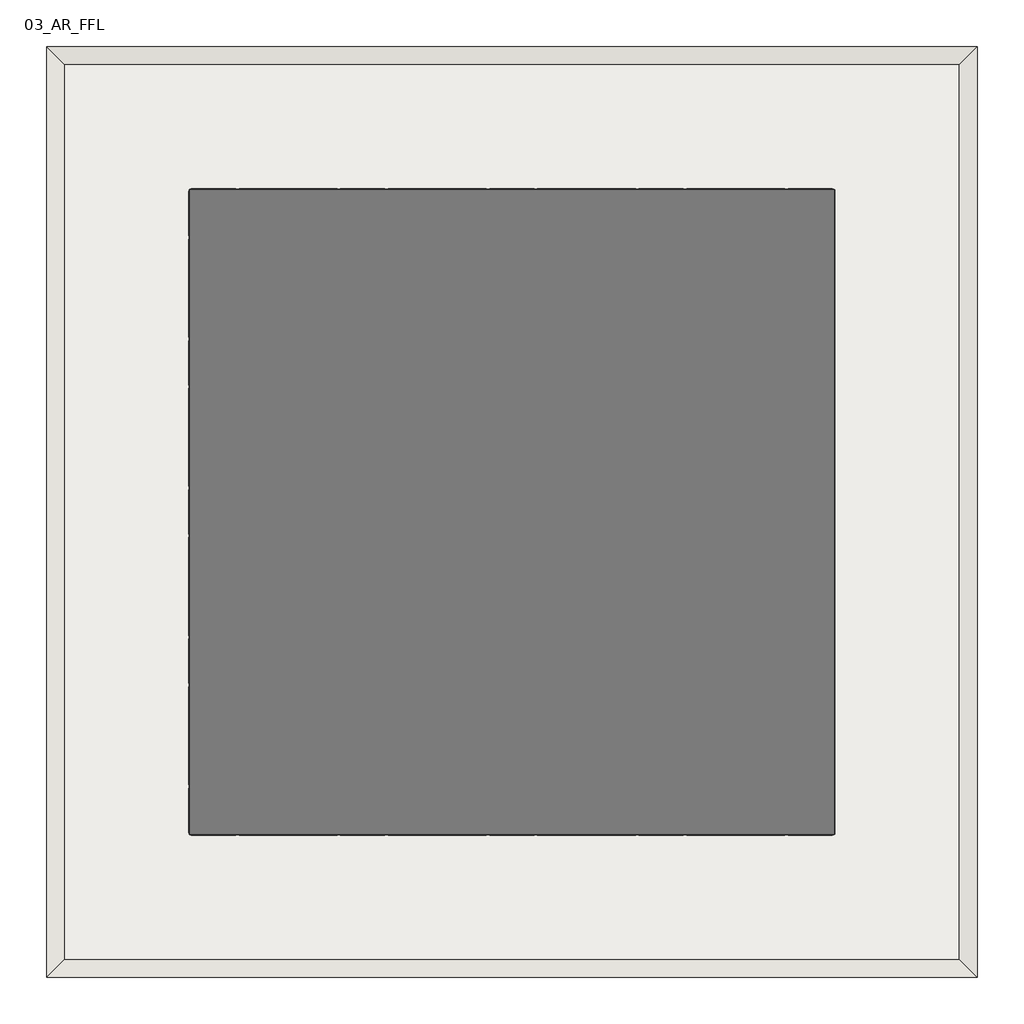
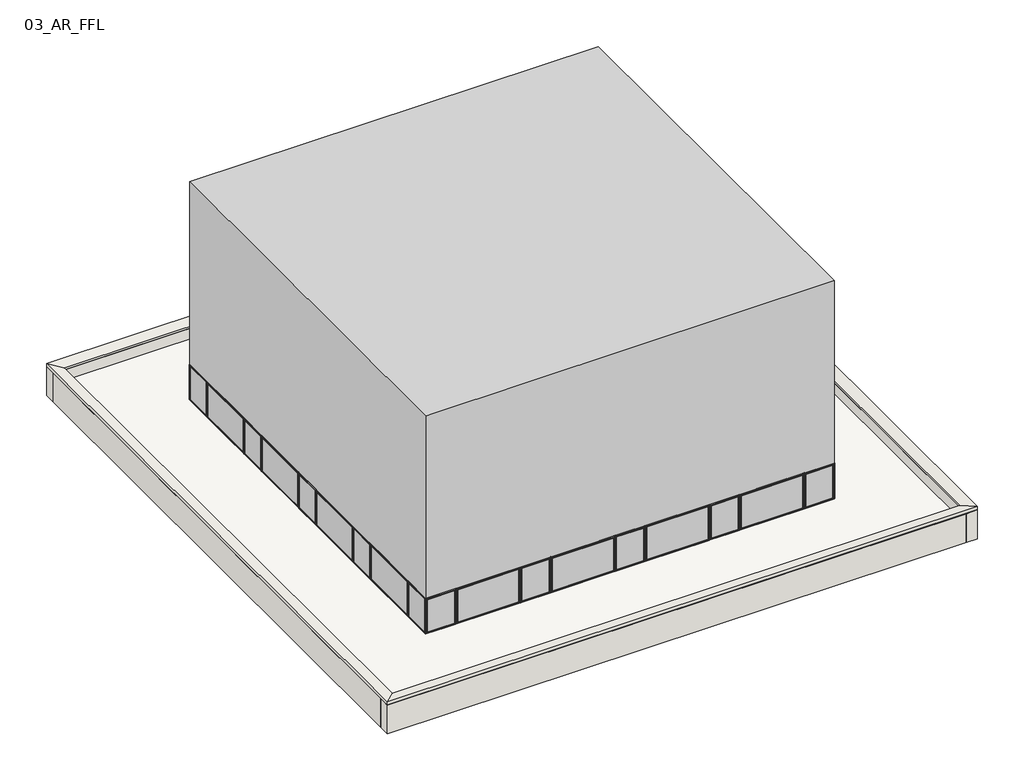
# One storey: 117 plates, 5 walls, 1 proxy, 1 slab.
"""IFC4 building model written with IfcOpenShell, lengths in millimetres."""

from ifc_helpers import new_model, si_unit, frame, origin, place, context, project, spatial, polyline, outline, extrude, faceted_brep, transform, mapped, element, save
from components import plate_8726400f, plate_2eab96cd, plate_1be53235, plate_5cd8ab1a, plate_e7452605, plate_281c45c6, plate_5da62759, plate_f63bed30, plate_f6789e8c, plate_6b9d3e6a, plate_9551265c, plate_7d549ede, plate_d79f475a, plate_da1aebaa, plate_d9c9aec6, plate_333e3654, plate_83ba0481, plate_6f23bc21, plate_85a4d653, plate_240e5154, plate_795dbca1, plate_477a77dc, plate_4ac96981, plate_dae2750f, plate_52a0c9b0, plate_4b29639f, parapet_parapet_310be217

model = new_model("IFC4")

# Units and contexts
model_context = context("Model", 3, world=origin())
ifc_project = project(units=[si_unit("LENGTHUNIT", "METRE", prefix="MILLI")], contexts=[model_context])

# Site, building, storey
site = spatial("IfcSite", under=ifc_project)
building = spatial("IfcBuilding", under=site)
storey = spatial("IfcBuildingStorey", under=building, Name="03_AR_FFL", Elevation=12000.0)

# Proxy
placement = place(None, origin())
element("IfcBuildingElementProxy", 1, Name="PENT HOUSE : PENT HOUSE", ObjectType="PENT HOUSE : PENT HOUSE", at=placement, inside=storey, context=model_context, shape_type="SweptSolid", body=[
    extrude(outline(polyline([(-8823.5775323, -3304.430099), (1976.4224677, -3304.430099), (1976.4224677, -14104.430099), (-8823.5775323, -14104.430099), (-8823.5775323, -3304.430099)])), frame((0.0, 0.0, 12000.0), z_axis=(0.0, 0.0, 1.0), x_axis=(1.0, 0.0, 0.0)), (0.0, 0.0, 1.0), 6096.0),
])

# Plates
plate_shape = plate_8726400f(model_context)
element("IfcPlate", 2, ObjectType="SCISSOR PANEL : SCISSOR PANEL", at=placement, inside=storey, context=model_context, shape_type="MappedRepresentation", body=[
    mapped(plate_shape, transform((1176.4224677, -11204.430099, 12850.0), x_axis=(0.0, -1.0, 0.0), y_axis=(0.0, 0.0, 1.0), z_axis=(-1.0, 0.0, 0.0))),
])
element("IfcPlate", 3, ObjectType="SCISSOR PANEL : SCISSOR PANEL", at=placement, inside=storey, context=model_context, shape_type="MappedRepresentation", body=[
    mapped(plate_shape, transform((-1323.5775323, -11204.430099, 12850.0), x_axis=(0.0, -1.0, 0.0), y_axis=(0.0, 0.0, 1.0), z_axis=(-1.0, 0.0, 0.0))),
])
element("IfcPlate", 4, ObjectType="SCISSOR PANEL : SCISSOR PANEL", at=placement, inside=storey, context=model_context, shape_type="MappedRepresentation", body=[
    mapped(plate_shape, transform((-3823.5775323, -11204.430099, 12850.0), x_axis=(0.0, -1.0, 0.0), y_axis=(0.0, 0.0, 1.0), z_axis=(-1.0, 0.0, 0.0))),
])
element("IfcPlate", 5, ObjectType="SCISSOR PANEL : SCISSOR PANEL", at=placement, inside=storey, context=model_context, shape_type="MappedRepresentation", body=[
    mapped(plate_shape, transform((-6323.5775323, -11204.430099, 12850.0), x_axis=(0.0, -1.0, 0.0), y_axis=(0.0, 0.0, 1.0), z_axis=(-1.0, 0.0, 0.0))),
])
element("IfcPlate", 6, ObjectType="SCISSOR PANEL : SCISSOR PANEL", at=placement, inside=storey, context=model_context, shape_type="MappedRepresentation", body=[
    mapped(plate_shape, transform((1176.4224677, -8702.2397554, 12850.0), x_axis=(0.0, -1.0, 0.0), y_axis=(0.0, 0.0, 1.0), z_axis=(-1.0, 0.0, 0.0))),
])
element("IfcPlate", 7, ObjectType="SCISSOR PANEL : SCISSOR PANEL", at=placement, inside=storey, context=model_context, shape_type="MappedRepresentation", body=[
    mapped(plate_shape, transform((-1323.5775323, -8702.2397554, 12850.0), x_axis=(0.0, -1.0, 0.0), y_axis=(0.0, 0.0, 1.0), z_axis=(-1.0, 0.0, 0.0))),
])
element("IfcPlate", 8, ObjectType="SCISSOR PANEL : SCISSOR PANEL", at=placement, inside=storey, context=model_context, shape_type="MappedRepresentation", body=[
    mapped(plate_shape, transform((-3823.5775323, -8702.2397554, 12850.0), x_axis=(0.0, -1.0, 0.0), y_axis=(0.0, 0.0, 1.0), z_axis=(-1.0, 0.0, 0.0))),
])
element("IfcPlate", 9, ObjectType="SCISSOR PANEL : SCISSOR PANEL", at=placement, inside=storey, context=model_context, shape_type="MappedRepresentation", body=[
    mapped(plate_shape, transform((-6323.5775323, -8702.2397554, 12850.0), x_axis=(0.0, -1.0, 0.0), y_axis=(0.0, 0.0, 1.0), z_axis=(-1.0, 0.0, 0.0))),
])
element("IfcPlate", 10, ObjectType="SCISSOR PANEL : SCISSOR PANEL", at=placement, inside=storey, context=model_context, shape_type="MappedRepresentation", body=[
    mapped(plate_shape, transform((1176.4224677, -6202.2397554, 12850.0), x_axis=(0.0, -1.0, 0.0), y_axis=(0.0, 0.0, 1.0), z_axis=(-1.0, 0.0, 0.0))),
])
element("IfcPlate", 11, ObjectType="SCISSOR PANEL : SCISSOR PANEL", at=placement, inside=storey, context=model_context, shape_type="MappedRepresentation", body=[
    mapped(plate_shape, transform((-1323.5775323, -6202.2397554, 12850.0), x_axis=(0.0, -1.0, 0.0), y_axis=(0.0, 0.0, 1.0), z_axis=(-1.0, 0.0, 0.0))),
])
element("IfcPlate", 12, ObjectType="SCISSOR PANEL : SCISSOR PANEL", at=placement, inside=storey, context=model_context, shape_type="MappedRepresentation", body=[
    mapped(plate_shape, transform((-3823.5775323, -6202.2397554, 12850.0), x_axis=(0.0, -1.0, 0.0), y_axis=(0.0, 0.0, 1.0), z_axis=(-1.0, 0.0, 0.0))),
])
element("IfcPlate", 13, ObjectType="SCISSOR PANEL : SCISSOR PANEL", at=placement, inside=storey, context=model_context, shape_type="MappedRepresentation", body=[
    mapped(plate_shape, transform((-6323.5775323, -6202.2397554, 12850.0), x_axis=(0.0, -1.0, 0.0), y_axis=(0.0, 0.0, 1.0), z_axis=(-1.0, 0.0, 0.0))),
])
plate_2_shape = plate_2eab96cd(model_context)
element("IfcPlate", 14, ObjectType="SCISSOR PANEL : SCISSOR PANEL", at=placement, inside=storey, context=model_context, shape_type="MappedRepresentation", body=[
    mapped(plate_2_shape, transform((-523.5775323, -11204.430099, 12850.0), x_axis=(0.0, -1.0, 0.0), y_axis=(0.0, 0.0, 1.0), z_axis=(-1.0, 0.0, 0.0))),
])
element("IfcPlate", 15, ObjectType="SCISSOR PANEL : SCISSOR PANEL", at=placement, inside=storey, context=model_context, shape_type="MappedRepresentation", body=[
    mapped(plate_2_shape, transform((-3023.5775323, -11204.430099, 12850.0), x_axis=(0.0, -1.0, 0.0), y_axis=(0.0, 0.0, 1.0), z_axis=(-1.0, 0.0, 0.0))),
])
element("IfcPlate", 16, ObjectType="SCISSOR PANEL : SCISSOR PANEL", at=placement, inside=storey, context=model_context, shape_type="MappedRepresentation", body=[
    mapped(plate_2_shape, transform((-5523.5775323, -11204.430099, 12850.0), x_axis=(0.0, -1.0, 0.0), y_axis=(0.0, 0.0, 1.0), z_axis=(-1.0, 0.0, 0.0))),
])
element("IfcPlate", 17, ObjectType="SCISSOR PANEL : SCISSOR PANEL", at=placement, inside=storey, context=model_context, shape_type="MappedRepresentation", body=[
    mapped(plate_2_shape, transform((-523.5775323, -8702.2397554, 12850.0), x_axis=(0.0, -1.0, 0.0), y_axis=(0.0, 0.0, 1.0), z_axis=(-1.0, 0.0, 0.0))),
])
element("IfcPlate", 18, ObjectType="SCISSOR PANEL : SCISSOR PANEL", at=placement, inside=storey, context=model_context, shape_type="MappedRepresentation", body=[
    mapped(plate_2_shape, transform((-3023.5775323, -8702.2397554, 12850.0), x_axis=(0.0, -1.0, 0.0), y_axis=(0.0, 0.0, 1.0), z_axis=(-1.0, 0.0, 0.0))),
])
element("IfcPlate", 19, ObjectType="SCISSOR PANEL : SCISSOR PANEL", at=placement, inside=storey, context=model_context, shape_type="MappedRepresentation", body=[
    mapped(plate_2_shape, transform((-5523.5775323, -8702.2397554, 12850.0), x_axis=(0.0, -1.0, 0.0), y_axis=(0.0, 0.0, 1.0), z_axis=(-1.0, 0.0, 0.0))),
])
element("IfcPlate", 20, ObjectType="SCISSOR PANEL : SCISSOR PANEL", at=placement, inside=storey, context=model_context, shape_type="MappedRepresentation", body=[
    mapped(plate_2_shape, transform((-523.5775323, -6202.2397554, 12850.0), x_axis=(0.0, -1.0, 0.0), y_axis=(0.0, 0.0, 1.0), z_axis=(-1.0, 0.0, 0.0))),
])
element("IfcPlate", 21, ObjectType="SCISSOR PANEL : SCISSOR PANEL", at=placement, inside=storey, context=model_context, shape_type="MappedRepresentation", body=[
    mapped(plate_2_shape, transform((-3023.5775323, -6202.2397554, 12850.0), x_axis=(0.0, -1.0, 0.0), y_axis=(0.0, 0.0, 1.0), z_axis=(-1.0, 0.0, 0.0))),
])
element("IfcPlate", 22, ObjectType="SCISSOR PANEL : SCISSOR PANEL", at=placement, inside=storey, context=model_context, shape_type="MappedRepresentation", body=[
    mapped(plate_2_shape, transform((-5523.5775323, -6202.2397554, 12850.0), x_axis=(0.0, -1.0, 0.0), y_axis=(0.0, 0.0, 1.0), z_axis=(-1.0, 0.0, 0.0))),
])
plate_3_shape = plate_1be53235(model_context)
element("IfcPlate", 23, ObjectType="SCISSOR PANEL : SCISSOR PANEL", at=placement, inside=storey, context=model_context, shape_type="MappedRepresentation", body=[
    mapped(plate_3_shape, transform((-523.5775323, -12454.430099, 12850.0), x_axis=(0.0, -1.0, 0.0), y_axis=(0.0, 0.0, 1.0), z_axis=(-1.0, 0.0, 0.0))),
])
element("IfcPlate", 24, ObjectType="SCISSOR PANEL : SCISSOR PANEL", at=placement, inside=storey, context=model_context, shape_type="MappedRepresentation", body=[
    mapped(plate_3_shape, transform((-3023.5775323, -12454.430099, 12850.0), x_axis=(0.0, -1.0, 0.0), y_axis=(0.0, 0.0, 1.0), z_axis=(-1.0, 0.0, 0.0))),
])
element("IfcPlate", 25, ObjectType="SCISSOR PANEL : SCISSOR PANEL", at=placement, inside=storey, context=model_context, shape_type="MappedRepresentation", body=[
    mapped(plate_3_shape, transform((-5523.5775323, -12454.430099, 12850.0), x_axis=(0.0, -1.0, 0.0), y_axis=(0.0, 0.0, 1.0), z_axis=(-1.0, 0.0, 0.0))),
])
element("IfcPlate", 26, ObjectType="SCISSOR PANEL : SCISSOR PANEL", at=placement, inside=storey, context=model_context, shape_type="MappedRepresentation", body=[
    mapped(plate_3_shape, transform((-523.5775323, -7452.2397554, 12850.0), x_axis=(0.0, -1.0, 0.0), y_axis=(0.0, 0.0, 1.0), z_axis=(-1.0, 0.0, 0.0))),
])
element("IfcPlate", 27, ObjectType="SCISSOR PANEL : SCISSOR PANEL", at=placement, inside=storey, context=model_context, shape_type="MappedRepresentation", body=[
    mapped(plate_3_shape, transform((-3023.5775323, -7452.2397554, 12850.0), x_axis=(0.0, -1.0, 0.0), y_axis=(0.0, 0.0, 1.0), z_axis=(-1.0, 0.0, 0.0))),
])
element("IfcPlate", 28, ObjectType="SCISSOR PANEL : SCISSOR PANEL", at=placement, inside=storey, context=model_context, shape_type="MappedRepresentation", body=[
    mapped(plate_3_shape, transform((-5523.5775323, -7452.2397554, 12850.0), x_axis=(0.0, -1.0, 0.0), y_axis=(0.0, 0.0, 1.0), z_axis=(-1.0, 0.0, 0.0))),
])
element("IfcPlate", 29, ObjectType="SCISSOR PANEL : SCISSOR PANEL", at=placement, inside=storey, context=model_context, shape_type="MappedRepresentation", body=[
    mapped(plate_3_shape, transform((-523.5775323, -4952.2397554, 12850.0), x_axis=(0.0, -1.0, 0.0), y_axis=(0.0, 0.0, 1.0), z_axis=(-1.0, 0.0, 0.0))),
])
element("IfcPlate", 30, ObjectType="SCISSOR PANEL : SCISSOR PANEL", at=placement, inside=storey, context=model_context, shape_type="MappedRepresentation", body=[
    mapped(plate_3_shape, transform((-3023.5775323, -4952.2397554, 12850.0), x_axis=(0.0, -1.0, 0.0), y_axis=(0.0, 0.0, 1.0), z_axis=(-1.0, 0.0, 0.0))),
])
element("IfcPlate", 31, ObjectType="SCISSOR PANEL : SCISSOR PANEL", at=placement, inside=storey, context=model_context, shape_type="MappedRepresentation", body=[
    mapped(plate_3_shape, transform((-5523.5775323, -4952.2397554, 12850.0), x_axis=(0.0, -1.0, 0.0), y_axis=(0.0, 0.0, 1.0), z_axis=(-1.0, 0.0, 0.0))),
])
plate_4_shape = plate_5cd8ab1a(model_context)
element("IfcPlate", 32, ObjectType="SCISSOR PANEL : SCISSOR PANEL", at=placement, inside=storey, context=model_context, shape_type="MappedRepresentation", body=[
    mapped(plate_4_shape, transform((-523.5775323, -9953.3349272, 12850.0), x_axis=(0.0, -1.0, 0.0), y_axis=(0.0, 0.0, 1.0), z_axis=(-1.0, 0.0, 0.0))),
])
element("IfcPlate", 33, ObjectType="SCISSOR PANEL : SCISSOR PANEL", at=placement, inside=storey, context=model_context, shape_type="MappedRepresentation", body=[
    mapped(plate_4_shape, transform((-3023.5775323, -9953.3349272, 12850.0), x_axis=(0.0, -1.0, 0.0), y_axis=(0.0, 0.0, 1.0), z_axis=(-1.0, 0.0, 0.0))),
])
element("IfcPlate", 34, ObjectType="SCISSOR PANEL : SCISSOR PANEL", at=placement, inside=storey, context=model_context, shape_type="MappedRepresentation", body=[
    mapped(plate_4_shape, transform((-5523.5775323, -9953.3349272, 12850.0), x_axis=(0.0, -1.0, 0.0), y_axis=(0.0, 0.0, 1.0), z_axis=(-1.0, 0.0, 0.0))),
])
plate_5_shape = plate_e7452605(model_context)
element("IfcPlate", 35, ObjectType="SCISSOR PANEL : SCISSOR PANEL", at=placement, inside=storey, context=model_context, shape_type="MappedRepresentation", body=[
    mapped(plate_5_shape, transform((1176.4224677, -12454.430099, 12850.0), x_axis=(0.0, -1.0, 0.0), y_axis=(0.0, 0.0, 1.0), z_axis=(-1.0, 0.0, 0.0))),
])
element("IfcPlate", 36, ObjectType="SCISSOR PANEL : SCISSOR PANEL", at=placement, inside=storey, context=model_context, shape_type="MappedRepresentation", body=[
    mapped(plate_5_shape, transform((-1323.5775323, -12454.430099, 12850.0), x_axis=(0.0, -1.0, 0.0), y_axis=(0.0, 0.0, 1.0), z_axis=(-1.0, 0.0, 0.0))),
])
element("IfcPlate", 37, ObjectType="SCISSOR PANEL : SCISSOR PANEL", at=placement, inside=storey, context=model_context, shape_type="MappedRepresentation", body=[
    mapped(plate_5_shape, transform((-3823.5775323, -12454.430099, 12850.0), x_axis=(0.0, -1.0, 0.0), y_axis=(0.0, 0.0, 1.0), z_axis=(-1.0, 0.0, 0.0))),
])
element("IfcPlate", 38, ObjectType="SCISSOR PANEL : SCISSOR PANEL", at=placement, inside=storey, context=model_context, shape_type="MappedRepresentation", body=[
    mapped(plate_5_shape, transform((-6323.5775323, -12454.430099, 12850.0), x_axis=(0.0, -1.0, 0.0), y_axis=(0.0, 0.0, 1.0), z_axis=(-1.0, 0.0, 0.0))),
])
element("IfcPlate", 39, ObjectType="SCISSOR PANEL : SCISSOR PANEL", at=placement, inside=storey, context=model_context, shape_type="MappedRepresentation", body=[
    mapped(plate_5_shape, transform((1176.4224677, -7452.2397554, 12850.0), x_axis=(0.0, -1.0, 0.0), y_axis=(0.0, 0.0, 1.0), z_axis=(-1.0, 0.0, 0.0))),
])
element("IfcPlate", 40, ObjectType="SCISSOR PANEL : SCISSOR PANEL", at=placement, inside=storey, context=model_context, shape_type="MappedRepresentation", body=[
    mapped(plate_5_shape, transform((-1323.5775323, -7452.2397554, 12850.0), x_axis=(0.0, -1.0, 0.0), y_axis=(0.0, 0.0, 1.0), z_axis=(-1.0, 0.0, 0.0))),
])
element("IfcPlate", 41, ObjectType="SCISSOR PANEL : SCISSOR PANEL", at=placement, inside=storey, context=model_context, shape_type="MappedRepresentation", body=[
    mapped(plate_5_shape, transform((-3823.5775323, -7452.2397554, 12850.0), x_axis=(0.0, -1.0, 0.0), y_axis=(0.0, 0.0, 1.0), z_axis=(-1.0, 0.0, 0.0))),
])
element("IfcPlate", 42, ObjectType="SCISSOR PANEL : SCISSOR PANEL", at=placement, inside=storey, context=model_context, shape_type="MappedRepresentation", body=[
    mapped(plate_5_shape, transform((-6323.5775323, -7452.2397554, 12850.0), x_axis=(0.0, -1.0, 0.0), y_axis=(0.0, 0.0, 1.0), z_axis=(-1.0, 0.0, 0.0))),
])
element("IfcPlate", 43, ObjectType="SCISSOR PANEL : SCISSOR PANEL", at=placement, inside=storey, context=model_context, shape_type="MappedRepresentation", body=[
    mapped(plate_5_shape, transform((1176.4224677, -4952.2397554, 12850.0), x_axis=(0.0, -1.0, 0.0), y_axis=(0.0, 0.0, 1.0), z_axis=(-1.0, 0.0, 0.0))),
])
element("IfcPlate", 44, ObjectType="SCISSOR PANEL : SCISSOR PANEL", at=placement, inside=storey, context=model_context, shape_type="MappedRepresentation", body=[
    mapped(plate_5_shape, transform((-1323.5775323, -4952.2397554, 12850.0), x_axis=(0.0, -1.0, 0.0), y_axis=(0.0, 0.0, 1.0), z_axis=(-1.0, 0.0, 0.0))),
])
element("IfcPlate", 45, ObjectType="SCISSOR PANEL : SCISSOR PANEL", at=placement, inside=storey, context=model_context, shape_type="MappedRepresentation", body=[
    mapped(plate_5_shape, transform((-3823.5775323, -4952.2397554, 12850.0), x_axis=(0.0, -1.0, 0.0), y_axis=(0.0, 0.0, 1.0), z_axis=(-1.0, 0.0, 0.0))),
])
element("IfcPlate", 46, ObjectType="SCISSOR PANEL : SCISSOR PANEL", at=placement, inside=storey, context=model_context, shape_type="MappedRepresentation", body=[
    mapped(plate_5_shape, transform((-6323.5775323, -4952.2397554, 12850.0), x_axis=(0.0, -1.0, 0.0), y_axis=(0.0, 0.0, 1.0), z_axis=(-1.0, 0.0, 0.0))),
])
plate_6_shape = plate_281c45c6(model_context)
element("IfcPlate", 47, ObjectType="SCISSOR PANEL : SCISSOR PANEL", at=placement, inside=storey, context=model_context, shape_type="MappedRepresentation", body=[
    mapped(plate_6_shape, transform((1176.4224677, -9953.3349272, 12850.0), x_axis=(0.0, -1.0, 0.0), y_axis=(0.0, 0.0, 1.0), z_axis=(-1.0, 0.0, 0.0))),
])
element("IfcPlate", 48, ObjectType="SCISSOR PANEL : SCISSOR PANEL", at=placement, inside=storey, context=model_context, shape_type="MappedRepresentation", body=[
    mapped(plate_6_shape, transform((-1323.5775323, -9953.3349272, 12850.0), x_axis=(0.0, -1.0, 0.0), y_axis=(0.0, 0.0, 1.0), z_axis=(-1.0, 0.0, 0.0))),
])
element("IfcPlate", 49, ObjectType="SCISSOR PANEL : SCISSOR PANEL", at=placement, inside=storey, context=model_context, shape_type="MappedRepresentation", body=[
    mapped(plate_6_shape, transform((-3823.5775323, -9953.3349272, 12850.0), x_axis=(0.0, -1.0, 0.0), y_axis=(0.0, 0.0, 1.0), z_axis=(-1.0, 0.0, 0.0))),
])
element("IfcPlate", 50, ObjectType="SCISSOR PANEL : SCISSOR PANEL", at=placement, inside=storey, context=model_context, shape_type="MappedRepresentation", body=[
    mapped(plate_6_shape, transform((-6323.5775323, -9953.3349272, 12850.0), x_axis=(0.0, -1.0, 0.0), y_axis=(0.0, 0.0, 1.0), z_axis=(-1.0, 0.0, 0.0))),
])
plate_7_shape = plate_5da62759(model_context)
element("IfcPlate", 51, ObjectType="SCISSOR PANEL : SCISSOR PANEL", at=placement, inside=storey, context=model_context, shape_type="MappedRepresentation", body=[
    mapped(plate_7_shape, transform((-8023.5775323, -13704.430099, 12850.0), x_axis=(0.0, -1.0, 0.0), y_axis=(0.0, 0.0, 1.0), z_axis=(-1.0, 0.0, 0.0))),
])
plate_8_shape = plate_f63bed30(model_context)
element("IfcPlate", 52, ObjectType="SCISSOR PANEL : SCISSOR PANEL", at=placement, inside=storey, context=model_context, shape_type="MappedRepresentation", body=[
    mapped(plate_8_shape, transform((-8023.5775323, -12454.430099, 12850.0), x_axis=(0.0, -1.0, 0.0), y_axis=(0.0, 0.0, 1.0), z_axis=(-1.0, 0.0, 0.0))),
])
element("IfcPlate", 53, ObjectType="SCISSOR PANEL : SCISSOR PANEL", at=placement, inside=storey, context=model_context, shape_type="MappedRepresentation", body=[
    mapped(plate_8_shape, transform((-8023.5775323, -7452.2397554, 12850.0), x_axis=(0.0, -1.0, 0.0), y_axis=(0.0, 0.0, 1.0), z_axis=(-1.0, 0.0, 0.0))),
])
element("IfcPlate", 54, ObjectType="SCISSOR PANEL : SCISSOR PANEL", at=placement, inside=storey, context=model_context, shape_type="MappedRepresentation", body=[
    mapped(plate_8_shape, transform((-8023.5775323, -4952.2397554, 12850.0), x_axis=(0.0, -1.0, 0.0), y_axis=(0.0, 0.0, 1.0), z_axis=(-1.0, 0.0, 0.0))),
])
plate_9_shape = plate_f6789e8c(model_context)
element("IfcPlate", 55, ObjectType="SCISSOR PANEL : SCISSOR PANEL", at=placement, inside=storey, context=model_context, shape_type="MappedRepresentation", body=[
    mapped(plate_9_shape, transform((-8023.5775323, -11204.430099, 12850.0), x_axis=(0.0, -1.0, 0.0), y_axis=(0.0, 0.0, 1.0), z_axis=(-1.0, 0.0, 0.0))),
])
element("IfcPlate", 56, ObjectType="SCISSOR PANEL : SCISSOR PANEL", at=placement, inside=storey, context=model_context, shape_type="MappedRepresentation", body=[
    mapped(plate_9_shape, transform((-8023.5775323, -8702.2397554, 12850.0), x_axis=(0.0, -1.0, 0.0), y_axis=(0.0, 0.0, 1.0), z_axis=(-1.0, 0.0, 0.0))),
])
element("IfcPlate", 57, ObjectType="SCISSOR PANEL : SCISSOR PANEL", at=placement, inside=storey, context=model_context, shape_type="MappedRepresentation", body=[
    mapped(plate_9_shape, transform((-8023.5775323, -6202.2397554, 12850.0), x_axis=(0.0, -1.0, 0.0), y_axis=(0.0, 0.0, 1.0), z_axis=(-1.0, 0.0, 0.0))),
])
plate_10_shape = plate_6b9d3e6a(model_context)
element("IfcPlate", 58, ObjectType="SCISSOR PANEL : SCISSOR PANEL", at=placement, inside=storey, context=model_context, shape_type="MappedRepresentation", body=[
    mapped(plate_10_shape, transform((-8023.5775323, -9953.3349272, 12850.0), x_axis=(0.0, -1.0, 0.0), y_axis=(0.0, 0.0, 1.0), z_axis=(-1.0, 0.0, 0.0))),
])
plate_11_shape = plate_9551265c(model_context)
element("IfcPlate", 59, ObjectType="SCISSOR PANEL : SCISSOR PANEL", at=placement, inside=storey, context=model_context, shape_type="MappedRepresentation", body=[
    mapped(plate_11_shape, transform((-8023.5775323, -3703.3349272, 12850.0), x_axis=(0.0, -1.0, 0.0), y_axis=(0.0, 0.0, 1.0), z_axis=(-1.0, 0.0, 0.0))),
])
plate_12_shape = plate_7d549ede(model_context)
element("IfcPlate", 60, ObjectType="SCISSOR PANEL : SCISSOR PANEL", at=placement, inside=storey, context=model_context, shape_type="MappedRepresentation", body=[
    mapped(plate_12_shape, transform((1176.4224677, -3703.3349272, 12850.0), x_axis=(0.0, -1.0, 0.0), y_axis=(0.0, 0.0, 1.0), z_axis=(-1.0, 0.0, 0.0))),
])
element("IfcPlate", 61, ObjectType="SCISSOR PANEL : SCISSOR PANEL", at=placement, inside=storey, context=model_context, shape_type="MappedRepresentation", body=[
    mapped(plate_12_shape, transform((-1323.5775323, -3703.3349272, 12850.0), x_axis=(0.0, -1.0, 0.0), y_axis=(0.0, 0.0, 1.0), z_axis=(-1.0, 0.0, 0.0))),
])
element("IfcPlate", 62, ObjectType="SCISSOR PANEL : SCISSOR PANEL", at=placement, inside=storey, context=model_context, shape_type="MappedRepresentation", body=[
    mapped(plate_12_shape, transform((-3823.5775323, -3703.3349272, 12850.0), x_axis=(0.0, -1.0, 0.0), y_axis=(0.0, 0.0, 1.0), z_axis=(-1.0, 0.0, 0.0))),
])
element("IfcPlate", 63, ObjectType="SCISSOR PANEL : SCISSOR PANEL", at=placement, inside=storey, context=model_context, shape_type="MappedRepresentation", body=[
    mapped(plate_12_shape, transform((-6323.5775323, -3703.3349272, 12850.0), x_axis=(0.0, -1.0, 0.0), y_axis=(0.0, 0.0, 1.0), z_axis=(-1.0, 0.0, 0.0))),
])
plate_13_shape = plate_d79f475a(model_context)
element("IfcPlate", 64, ObjectType="SCISSOR PANEL : SCISSOR PANEL", at=placement, inside=storey, context=model_context, shape_type="MappedRepresentation", body=[
    mapped(plate_13_shape, transform((-523.5775323, -3703.3349272, 12850.0), x_axis=(0.0, -1.0, 0.0), y_axis=(0.0, 0.0, 1.0), z_axis=(-1.0, 0.0, 0.0))),
])
element("IfcPlate", 65, ObjectType="SCISSOR PANEL : SCISSOR PANEL", at=placement, inside=storey, context=model_context, shape_type="MappedRepresentation", body=[
    mapped(plate_13_shape, transform((-3023.5775323, -3703.3349272, 12850.0), x_axis=(0.0, -1.0, 0.0), y_axis=(0.0, 0.0, 1.0), z_axis=(-1.0, 0.0, 0.0))),
])
element("IfcPlate", 66, ObjectType="SCISSOR PANEL : SCISSOR PANEL", at=placement, inside=storey, context=model_context, shape_type="MappedRepresentation", body=[
    mapped(plate_13_shape, transform((-5523.5775323, -3703.3349272, 12850.0), x_axis=(0.0, -1.0, 0.0), y_axis=(0.0, 0.0, 1.0), z_axis=(-1.0, 0.0, 0.0))),
])
plate_14_shape = plate_da1aebaa(model_context)
element("IfcPlate", 67, ObjectType="SCISSOR PANEL : SCISSOR PANEL", at=placement, inside=storey, context=model_context, shape_type="MappedRepresentation", body=[
    mapped(plate_14_shape, transform((1976.4224677, -12454.430099, 12850.0), x_axis=(0.0, -1.0, 0.0), y_axis=(0.0, 0.0, 1.0), z_axis=(-1.0, 0.0, 0.0))),
])
element("IfcPlate", 68, ObjectType="SCISSOR PANEL : SCISSOR PANEL", at=placement, inside=storey, context=model_context, shape_type="MappedRepresentation", body=[
    mapped(plate_14_shape, transform((1976.4224677, -7452.2397554, 12850.0), x_axis=(0.0, -1.0, 0.0), y_axis=(0.0, 0.0, 1.0), z_axis=(-1.0, 0.0, 0.0))),
])
element("IfcPlate", 69, ObjectType="SCISSOR PANEL : SCISSOR PANEL", at=placement, inside=storey, context=model_context, shape_type="MappedRepresentation", body=[
    mapped(plate_14_shape, transform((1976.4224677, -4952.2397554, 12850.0), x_axis=(0.0, -1.0, 0.0), y_axis=(0.0, 0.0, 1.0), z_axis=(-1.0, 0.0, 0.0))),
])
plate_15_shape = plate_d9c9aec6(model_context)
element("IfcPlate", 70, ObjectType="SCISSOR PANEL : SCISSOR PANEL", at=placement, inside=storey, context=model_context, shape_type="MappedRepresentation", body=[
    mapped(plate_15_shape, transform((1976.4224677, -11204.430099, 12850.0), x_axis=(0.0, -1.0, 0.0), y_axis=(0.0, 0.0, 1.0), z_axis=(-1.0, 0.0, 0.0))),
])
element("IfcPlate", 71, ObjectType="SCISSOR PANEL : SCISSOR PANEL", at=placement, inside=storey, context=model_context, shape_type="MappedRepresentation", body=[
    mapped(plate_15_shape, transform((1976.4224677, -8702.2397554, 12850.0), x_axis=(0.0, -1.0, 0.0), y_axis=(0.0, 0.0, 1.0), z_axis=(-1.0, 0.0, 0.0))),
])
element("IfcPlate", 72, ObjectType="SCISSOR PANEL : SCISSOR PANEL", at=placement, inside=storey, context=model_context, shape_type="MappedRepresentation", body=[
    mapped(plate_15_shape, transform((1976.4224677, -6202.2397554, 12850.0), x_axis=(0.0, -1.0, 0.0), y_axis=(0.0, 0.0, 1.0), z_axis=(-1.0, 0.0, 0.0))),
])
plate_16_shape = plate_333e3654(model_context)
element("IfcPlate", 73, ObjectType="SCISSOR PANEL : SCISSOR PANEL", at=placement, inside=storey, context=model_context, shape_type="MappedRepresentation", body=[
    mapped(plate_16_shape, transform((1976.4224677, -9953.3349272, 12850.0), x_axis=(0.0, -1.0, 0.0), y_axis=(0.0, 0.0, 1.0), z_axis=(-1.0, 0.0, 0.0))),
])
plate_17_shape = plate_83ba0481(model_context)
element("IfcPlate", 74, ObjectType="SCISSOR PANEL : SCISSOR PANEL", at=placement, inside=storey, context=model_context, shape_type="MappedRepresentation", body=[
    mapped(plate_17_shape, transform((1976.4224677, -13704.430099, 12850.0), x_axis=(0.0, -1.0, 0.0), y_axis=(0.0, 0.0, 1.0), z_axis=(-1.0, 0.0, 0.0))),
])
plate_18_shape = plate_6f23bc21(model_context)
element("IfcPlate", 75, ObjectType="SCISSOR PANEL : SCISSOR PANEL", at=placement, inside=storey, context=model_context, shape_type="MappedRepresentation", body=[
    mapped(plate_18_shape, transform((1176.4224677, -13704.430099, 12850.0), x_axis=(0.0, -1.0, 0.0), y_axis=(0.0, 0.0, 1.0), z_axis=(-1.0, 0.0, 0.0))),
])
element("IfcPlate", 76, ObjectType="SCISSOR PANEL : SCISSOR PANEL", at=placement, inside=storey, context=model_context, shape_type="MappedRepresentation", body=[
    mapped(plate_18_shape, transform((-1323.5775323, -13704.430099, 12850.0), x_axis=(0.0, -1.0, 0.0), y_axis=(0.0, 0.0, 1.0), z_axis=(-1.0, 0.0, 0.0))),
])
element("IfcPlate", 77, ObjectType="SCISSOR PANEL : SCISSOR PANEL", at=placement, inside=storey, context=model_context, shape_type="MappedRepresentation", body=[
    mapped(plate_18_shape, transform((-3823.5775323, -13704.430099, 12850.0), x_axis=(0.0, -1.0, 0.0), y_axis=(0.0, 0.0, 1.0), z_axis=(-1.0, 0.0, 0.0))),
])
element("IfcPlate", 78, ObjectType="SCISSOR PANEL : SCISSOR PANEL", at=placement, inside=storey, context=model_context, shape_type="MappedRepresentation", body=[
    mapped(plate_18_shape, transform((-6323.5775323, -13704.430099, 12850.0), x_axis=(0.0, -1.0, 0.0), y_axis=(0.0, 0.0, 1.0), z_axis=(-1.0, 0.0, 0.0))),
])
plate_19_shape = plate_85a4d653(model_context)
element("IfcPlate", 79, ObjectType="SCISSOR PANEL : SCISSOR PANEL", at=placement, inside=storey, context=model_context, shape_type="MappedRepresentation", body=[
    mapped(plate_19_shape, transform((-523.5775323, -13704.430099, 12850.0), x_axis=(0.0, -1.0, 0.0), y_axis=(0.0, 0.0, 1.0), z_axis=(-1.0, 0.0, 0.0))),
])
element("IfcPlate", 80, ObjectType="SCISSOR PANEL : SCISSOR PANEL", at=placement, inside=storey, context=model_context, shape_type="MappedRepresentation", body=[
    mapped(plate_19_shape, transform((-3023.5775323, -13704.430099, 12850.0), x_axis=(0.0, -1.0, 0.0), y_axis=(0.0, 0.0, 1.0), z_axis=(-1.0, 0.0, 0.0))),
])
element("IfcPlate", 81, ObjectType="SCISSOR PANEL : SCISSOR PANEL", at=placement, inside=storey, context=model_context, shape_type="MappedRepresentation", body=[
    mapped(plate_19_shape, transform((-5523.5775323, -13704.430099, 12850.0), x_axis=(0.0, -1.0, 0.0), y_axis=(0.0, 0.0, 1.0), z_axis=(-1.0, 0.0, 0.0))),
])
plate_20_shape = plate_240e5154(model_context)
element("IfcPlate", 82, ObjectType="SCISSOR PANEL : SCISSOR PANEL", at=placement, inside=storey, context=model_context, shape_type="MappedRepresentation", body=[
    mapped(plate_20_shape, transform((1576.4224677, -3454.430099, 12000.0), x_axis=(-1.0, 0.0, 0.0), y_axis=(0.0, -1.0, 0.0), z_axis=(0.0, 0.0, 1.0))),
])
element("IfcPlate", 83, ObjectType="SCISSOR PANEL : SCISSOR PANEL", at=placement, inside=storey, context=model_context, shape_type="MappedRepresentation", body=[
    mapped(plate_20_shape, transform((-8673.5775323, -3704.430099, 12000.0), x_axis=(0.0, -1.0, 0.0), y_axis=(1.0, 0.0, 0.0), z_axis=(0.0, 0.0, 1.0))),
])
element("IfcPlate", 84, ObjectType="SCISSOR PANEL : SCISSOR PANEL", at=placement, inside=storey, context=model_context, shape_type="MappedRepresentation", body=[
    mapped(plate_20_shape, transform((-8423.5775323, -13954.430099, 12000.0), x_axis=(1.0, 0.0, 0.0), y_axis=(0.0, 1.0, 0.0), z_axis=(0.0, 0.0, 1.0))),
])
element("IfcPlate", 85, ObjectType="SCISSOR PANEL : SCISSOR PANEL", at=placement, inside=storey, context=model_context, shape_type="MappedRepresentation", body=[
    mapped(plate_20_shape, transform((1826.4224677, -13704.430099, 12000.0), x_axis=(0.0, 1.0, 0.0), y_axis=(-1.0, 0.0, 0.0), z_axis=(0.0, 0.0, 1.0))),
])
plate_21_shape = plate_795dbca1(model_context)
element("IfcPlate", 86, ObjectType="SCISSOR PANEL : SCISSOR PANEL", at=placement, inside=storey, context=model_context, shape_type="MappedRepresentation", body=[
    mapped(plate_21_shape, transform((326.4224677, -3454.430099, 12000.0), x_axis=(-1.0, 0.0, 0.0), y_axis=(0.0, -1.0, 0.0), z_axis=(0.0, 0.0, 1.0))),
])
element("IfcPlate", 87, ObjectType="SCISSOR PANEL : SCISSOR PANEL", at=placement, inside=storey, context=model_context, shape_type="MappedRepresentation", body=[
    mapped(plate_21_shape, transform((-4673.5775323, -3454.430099, 12000.0), x_axis=(-1.0, 0.0, 0.0), y_axis=(0.0, -1.0, 0.0), z_axis=(0.0, 0.0, 1.0))),
])
element("IfcPlate", 88, ObjectType="SCISSOR PANEL : SCISSOR PANEL", at=placement, inside=storey, context=model_context, shape_type="MappedRepresentation", body=[
    mapped(plate_21_shape, transform((-7173.5775323, -3454.430099, 12000.0), x_axis=(-1.0, 0.0, 0.0), y_axis=(0.0, -1.0, 0.0), z_axis=(0.0, 0.0, 1.0))),
])
element("IfcPlate", 89, ObjectType="SCISSOR PANEL : SCISSOR PANEL", at=placement, inside=storey, context=model_context, shape_type="MappedRepresentation", body=[
    mapped(plate_21_shape, transform((-2173.5775323, -3454.430099, 12000.0), x_axis=(-1.0, 0.0, 0.0), y_axis=(0.0, -1.0, 0.0), z_axis=(0.0, 0.0, 1.0))),
])
element("IfcPlate", 90, ObjectType="SCISSOR PANEL : SCISSOR PANEL", at=placement, inside=storey, context=model_context, shape_type="MappedRepresentation", body=[
    mapped(plate_21_shape, transform((-8673.5775323, -4954.430099, 12000.0), x_axis=(0.0, -1.0, 0.0), y_axis=(1.0, 0.0, 0.0), z_axis=(0.0, 0.0, 1.0))),
])
element("IfcPlate", 91, ObjectType="SCISSOR PANEL : SCISSOR PANEL", at=placement, inside=storey, context=model_context, shape_type="MappedRepresentation", body=[
    mapped(plate_21_shape, transform((-8673.5775323, -7454.430099, 12000.0), x_axis=(0.0, -1.0, 0.0), y_axis=(1.0, 0.0, 0.0), z_axis=(0.0, 0.0, 1.0))),
])
element("IfcPlate", 92, ObjectType="SCISSOR PANEL : SCISSOR PANEL", at=placement, inside=storey, context=model_context, shape_type="MappedRepresentation", body=[
    mapped(plate_21_shape, transform((-8673.5775323, -9954.430099, 12000.0), x_axis=(0.0, -1.0, 0.0), y_axis=(1.0, 0.0, 0.0), z_axis=(0.0, 0.0, 1.0))),
])
element("IfcPlate", 93, ObjectType="SCISSOR PANEL : SCISSOR PANEL", at=placement, inside=storey, context=model_context, shape_type="MappedRepresentation", body=[
    mapped(plate_21_shape, transform((-8673.5775323, -12454.430099, 12000.0), x_axis=(0.0, -1.0, 0.0), y_axis=(1.0, 0.0, 0.0), z_axis=(0.0, 0.0, 1.0))),
])
element("IfcPlate", 94, ObjectType="SCISSOR PANEL : SCISSOR PANEL", at=placement, inside=storey, context=model_context, shape_type="MappedRepresentation", body=[
    mapped(plate_21_shape, transform((-7173.5775323, -13954.430099, 12000.0), x_axis=(1.0, 0.0, 0.0), y_axis=(0.0, 1.0, 0.0), z_axis=(0.0, 0.0, 1.0))),
])
element("IfcPlate", 95, ObjectType="SCISSOR PANEL : SCISSOR PANEL", at=placement, inside=storey, context=model_context, shape_type="MappedRepresentation", body=[
    mapped(plate_21_shape, transform((-4673.5775323, -13954.430099, 12000.0), x_axis=(1.0, 0.0, 0.0), y_axis=(0.0, 1.0, 0.0), z_axis=(0.0, 0.0, 1.0))),
])
element("IfcPlate", 96, ObjectType="SCISSOR PANEL : SCISSOR PANEL", at=placement, inside=storey, context=model_context, shape_type="MappedRepresentation", body=[
    mapped(plate_21_shape, transform((-2173.5775323, -13954.430099, 12000.0), x_axis=(1.0, 0.0, 0.0), y_axis=(0.0, 1.0, 0.0), z_axis=(0.0, 0.0, 1.0))),
])
element("IfcPlate", 97, ObjectType="SCISSOR PANEL : SCISSOR PANEL", at=placement, inside=storey, context=model_context, shape_type="MappedRepresentation", body=[
    mapped(plate_21_shape, transform((326.4224677, -13954.430099, 12000.0), x_axis=(1.0, 0.0, 0.0), y_axis=(0.0, 1.0, 0.0), z_axis=(0.0, 0.0, 1.0))),
])
element("IfcPlate", 98, ObjectType="SCISSOR PANEL : SCISSOR PANEL", at=placement, inside=storey, context=model_context, shape_type="MappedRepresentation", body=[
    mapped(plate_21_shape, transform((1826.4224677, -12454.430099, 12000.0), x_axis=(0.0, 1.0, 0.0), y_axis=(-1.0, 0.0, 0.0), z_axis=(0.0, 0.0, 1.0))),
])
element("IfcPlate", 99, ObjectType="SCISSOR PANEL : SCISSOR PANEL", at=placement, inside=storey, context=model_context, shape_type="MappedRepresentation", body=[
    mapped(plate_21_shape, transform((1826.4224677, -7452.2397554, 12000.0), x_axis=(0.0, 1.0, 0.0), y_axis=(-1.0, 0.0, 0.0), z_axis=(0.0, 0.0, 1.0))),
])
element("IfcPlate", 100, ObjectType="SCISSOR PANEL : SCISSOR PANEL", at=placement, inside=storey, context=model_context, shape_type="MappedRepresentation", body=[
    mapped(plate_21_shape, transform((1826.4224677, -4952.2397554, 12000.0), x_axis=(0.0, 1.0, 0.0), y_axis=(-1.0, 0.0, 0.0), z_axis=(0.0, 0.0, 1.0))),
])
plate_22_shape = plate_477a77dc(model_context)
element("IfcPlate", 101, ObjectType="SCISSOR PANEL : SCISSOR PANEL", at=placement, inside=storey, context=model_context, shape_type="MappedRepresentation", body=[
    mapped(plate_22_shape, transform((-3423.5775323, -3454.430099, 12000.0), x_axis=(-1.0, 0.0, 0.0), y_axis=(0.0, -1.0, 0.0), z_axis=(0.0, 0.0, 1.0))),
])
element("IfcPlate", 102, ObjectType="SCISSOR PANEL : SCISSOR PANEL", at=placement, inside=storey, context=model_context, shape_type="MappedRepresentation", body=[
    mapped(plate_22_shape, transform((-5923.5775323, -3454.430099, 12000.0), x_axis=(-1.0, 0.0, 0.0), y_axis=(0.0, -1.0, 0.0), z_axis=(0.0, 0.0, 1.0))),
])
element("IfcPlate", 103, ObjectType="SCISSOR PANEL : SCISSOR PANEL", at=placement, inside=storey, context=model_context, shape_type="MappedRepresentation", body=[
    mapped(plate_22_shape, transform((-923.5775323, -3454.430099, 12000.0), x_axis=(-1.0, 0.0, 0.0), y_axis=(0.0, -1.0, 0.0), z_axis=(0.0, 0.0, 1.0))),
])
element("IfcPlate", 104, ObjectType="SCISSOR PANEL : SCISSOR PANEL", at=placement, inside=storey, context=model_context, shape_type="MappedRepresentation", body=[
    mapped(plate_22_shape, transform((-8673.5775323, -6204.430099, 12000.0), x_axis=(0.0, -1.0, 0.0), y_axis=(1.0, 0.0, 0.0), z_axis=(0.0, 0.0, 1.0))),
])
element("IfcPlate", 105, ObjectType="SCISSOR PANEL : SCISSOR PANEL", at=placement, inside=storey, context=model_context, shape_type="MappedRepresentation", body=[
    mapped(plate_22_shape, transform((-8673.5775323, -8704.430099, 12000.0), x_axis=(0.0, -1.0, 0.0), y_axis=(1.0, 0.0, 0.0), z_axis=(0.0, 0.0, 1.0))),
])
element("IfcPlate", 106, ObjectType="SCISSOR PANEL : SCISSOR PANEL", at=placement, inside=storey, context=model_context, shape_type="MappedRepresentation", body=[
    mapped(plate_22_shape, transform((-8673.5775323, -11204.430099, 12000.0), x_axis=(0.0, -1.0, 0.0), y_axis=(1.0, 0.0, 0.0), z_axis=(0.0, 0.0, 1.0))),
])
element("IfcPlate", 107, ObjectType="SCISSOR PANEL : SCISSOR PANEL", at=placement, inside=storey, context=model_context, shape_type="MappedRepresentation", body=[
    mapped(plate_22_shape, transform((-5923.5775323, -13954.430099, 12000.0), x_axis=(1.0, 0.0, 0.0), y_axis=(0.0, 1.0, 0.0), z_axis=(0.0, 0.0, 1.0))),
])
element("IfcPlate", 108, ObjectType="SCISSOR PANEL : SCISSOR PANEL", at=placement, inside=storey, context=model_context, shape_type="MappedRepresentation", body=[
    mapped(plate_22_shape, transform((-3423.5775323, -13954.430099, 12000.0), x_axis=(1.0, 0.0, 0.0), y_axis=(0.0, 1.0, 0.0), z_axis=(0.0, 0.0, 1.0))),
])
element("IfcPlate", 109, ObjectType="SCISSOR PANEL : SCISSOR PANEL", at=placement, inside=storey, context=model_context, shape_type="MappedRepresentation", body=[
    mapped(plate_22_shape, transform((-923.5775323, -13954.430099, 12000.0), x_axis=(1.0, 0.0, 0.0), y_axis=(0.0, 1.0, 0.0), z_axis=(0.0, 0.0, 1.0))),
])
element("IfcPlate", 110, ObjectType="SCISSOR PANEL : SCISSOR PANEL", at=placement, inside=storey, context=model_context, shape_type="MappedRepresentation", body=[
    mapped(plate_22_shape, transform((1826.4224677, -11204.430099, 12000.0), x_axis=(0.0, 1.0, 0.0), y_axis=(-1.0, 0.0, 0.0), z_axis=(0.0, 0.0, 1.0))),
])
element("IfcPlate", 111, ObjectType="SCISSOR PANEL : SCISSOR PANEL", at=placement, inside=storey, context=model_context, shape_type="MappedRepresentation", body=[
    mapped(plate_22_shape, transform((1826.4224677, -8702.2397554, 12000.0), x_axis=(0.0, 1.0, 0.0), y_axis=(-1.0, 0.0, 0.0), z_axis=(0.0, 0.0, 1.0))),
])
element("IfcPlate", 112, ObjectType="SCISSOR PANEL : SCISSOR PANEL", at=placement, inside=storey, context=model_context, shape_type="MappedRepresentation", body=[
    mapped(plate_22_shape, transform((1826.4224677, -6202.2397554, 12000.0), x_axis=(0.0, 1.0, 0.0), y_axis=(-1.0, 0.0, 0.0), z_axis=(0.0, 0.0, 1.0))),
])
plate_23_shape = plate_4ac96981(model_context)
element("IfcPlate", 113, ObjectType="SCISSOR PANEL : SCISSOR PANEL", at=placement, inside=storey, context=model_context, shape_type="MappedRepresentation", body=[
    mapped(plate_23_shape, transform((-8423.5775323, -3454.430099, 12000.0), x_axis=(-1.0, 0.0, 0.0), y_axis=(0.0, -1.0, 0.0), z_axis=(0.0, 0.0, 1.0))),
])
element("IfcPlate", 114, ObjectType="SCISSOR PANEL : SCISSOR PANEL", at=placement, inside=storey, context=model_context, shape_type="MappedRepresentation", body=[
    mapped(plate_23_shape, transform((-8673.5775323, -13704.430099, 12000.0), x_axis=(0.0, -1.0, 0.0), y_axis=(1.0, 0.0, 0.0), z_axis=(0.0, 0.0, 1.0))),
])
element("IfcPlate", 115, ObjectType="SCISSOR PANEL : SCISSOR PANEL", at=placement, inside=storey, context=model_context, shape_type="MappedRepresentation", body=[
    mapped(plate_23_shape, transform((1576.4224677, -13954.430099, 12000.0), x_axis=(1.0, 0.0, 0.0), y_axis=(0.0, 1.0, 0.0), z_axis=(0.0, 0.0, 1.0))),
])
plate_24_shape = plate_dae2750f(model_context)
element("IfcPlate", 116, ObjectType="SCISSOR PANEL : SCISSOR PANEL", at=placement, inside=storey, context=model_context, shape_type="MappedRepresentation", body=[
    mapped(plate_24_shape, transform((1826.4224677, -9953.3349272, 12000.0), x_axis=(0.0, 1.0, 0.0), y_axis=(-1.0, 0.0, 0.0), z_axis=(0.0, 0.0, 1.0))),
])
plate_25_shape = plate_52a0c9b0(model_context)
element("IfcPlate", 117, ObjectType="SCISSOR PANEL : SCISSOR PANEL", at=placement, inside=storey, context=model_context, shape_type="MappedRepresentation", body=[
    mapped(plate_25_shape, transform((1826.4224677, -3703.3349272, 12000.0), x_axis=(0.0, 1.0, 0.0), y_axis=(-1.0, 0.0, 0.0), z_axis=(0.0, 0.0, 1.0))),
])
plate_26_shape = plate_4b29639f(model_context)
element("IfcPlate", 118, ObjectType="SCISSOR PANEL : SCISSOR PANEL", at=placement, inside=storey, context=model_context, shape_type="MappedRepresentation", body=[
    mapped(plate_26_shape, transform((1976.4224677, -3703.3349272, 12850.0), x_axis=(0.0, -1.0, 0.0), y_axis=(0.0, 0.0, 1.0), z_axis=(-1.0, 0.0, 0.0))),
])

# Slab
element("IfcSlab", 119, ObjectType="Generic Floor - 400mm", at=placement, inside=storey, context=model_context, shape_type="SweptSolid", body=[
    extrude(outline(polyline([(4074.232124, -1204.430099), (4074.232124, -16204.430099), (-10921.3871887, -16204.430099), (-10921.3871887, -1204.430099), (4074.232124, -1204.430099)]), holes=[polyline([(-8623.5775323, -3504.430099), (-8623.5775323, -13904.430099), (1776.4224677, -13904.430099), (1776.4224677, -3504.430099), (-8623.5775323, -3504.430099)])]), frame((0.0, 0.0, 11600.0), z_axis=(0.0, 0.0, 1.0), x_axis=(1.0, 0.0, 0.0)), (0.0, 0.0, 1.0), 400.0),
])

# Walls
element("IfcWall", 120, ObjectType="Generic - 300mm", at=placement, inside=storey, context=model_context, shape_type="Brep", body=[
    faceted_brep([(-11221.3871887, -1204.430099, 11500.0), (-10921.3871887, -1204.430099, 11500.0), (4074.232124, -1204.430099, 11500.0), (4374.232124, -1204.430099, 11500.0), (4374.232124, -1204.430099, 12300.0), (4074.232124, -1204.430099, 12300.0), (-10921.3871887, -1204.430099, 12300.0), (-11221.3871887, -1204.430099, 12300.0), (-11221.3871887, -904.430099, 11500.0), (-11221.3871887, -904.430099, 12300.0), (4374.232124, -904.430099, 12300.0), (4374.232124, -904.430099, 11500.0)], [[[0, 1, 2, 3, 4, 5, 6, 7]], [[8, 9, 10, 11]], [[3, 2, 1, 0, 8, 11]], [[7, 6, 5, 4, 10, 9]], [[4, 3, 11, 10]], [[0, 7, 9, 8]]]),
])
element("IfcWall", 121, ObjectType="Generic - 300mm", at=placement, inside=storey, context=model_context, shape_type="Brep", body=[
    faceted_brep([(4074.232124, -1204.430099, 11500.0), (4074.232124, -16204.430099, 11500.0), (4074.232124, -16504.430099, 11500.0), (4074.232124, -16504.430099, 12300.0), (4074.232124, -16204.430099, 12300.0), (4074.232124, -1204.430099, 12300.0), (4374.232124, -1204.430099, 11500.0), (4374.232124, -1204.430099, 12300.0), (4374.232124, -16504.430099, 12300.0), (4374.232124, -16504.430099, 11500.0)], [[[0, 1, 2, 3, 4, 5]], [[6, 7, 8, 9]], [[2, 1, 0, 6, 9]], [[5, 4, 3, 8, 7]], [[0, 5, 7, 6]], [[3, 2, 9, 8]]]),
])
element("IfcWall", 122, ObjectType="Generic - 300mm", at=placement, inside=storey, context=model_context, shape_type="Brep", body=[
    faceted_brep([(4074.232124, -16204.430099, 11500.0), (-10921.3871887, -16204.430099, 11500.0), (-11221.3871887, -16204.430099, 11500.0), (-11221.3871887, -16204.430099, 12300.0), (-10921.3871887, -16204.430099, 12300.0), (4074.232124, -16204.430099, 12300.0), (4074.232124, -16504.430099, 11500.0), (4074.232124, -16504.430099, 12300.0), (-11221.3871887, -16504.430099, 12300.0), (-11221.3871887, -16504.430099, 11500.0)], [[[0, 1, 2, 3, 4, 5]], [[6, 7, 8, 9]], [[2, 1, 0, 6, 9]], [[5, 4, 3, 8, 7]], [[0, 5, 7, 6]], [[3, 2, 9, 8]]]),
])
element("IfcWall", 123, ObjectType="Generic - 300mm", at=placement, inside=storey, context=model_context, shape_type="SweptSolid", body=[
    extrude(outline(polyline([(-10921.3871887, -1204.430099), (-10921.3871887, -16204.430099), (-11221.3871887, -16204.430099), (-11221.3871887, -1204.430099), (-10921.3871887, -1204.430099)])), frame((0.0, 0.0, 11500.0), z_axis=(0.0, 0.0, 1.0), x_axis=(1.0, 0.0, 0.0)), (0.0, 0.0, 1.0), 800.0),
])
parapet_parapet_shape = parapet_parapet_310be217(model_context)
element("IfcWall", 124, ObjectType="PARAPET : PARAPET", at=placement, inside=storey, context=model_context, shape_type="MappedRepresentation", body=[
    mapped(parapet_parapet_shape, transform((0.0, 0.0, 0.0), x_axis=(1.0, 0.0, 0.0), y_axis=(0.0, 1.0, 0.0), z_axis=(0.0, 0.0, 1.0))),
])

save(model, "model.ifc")
